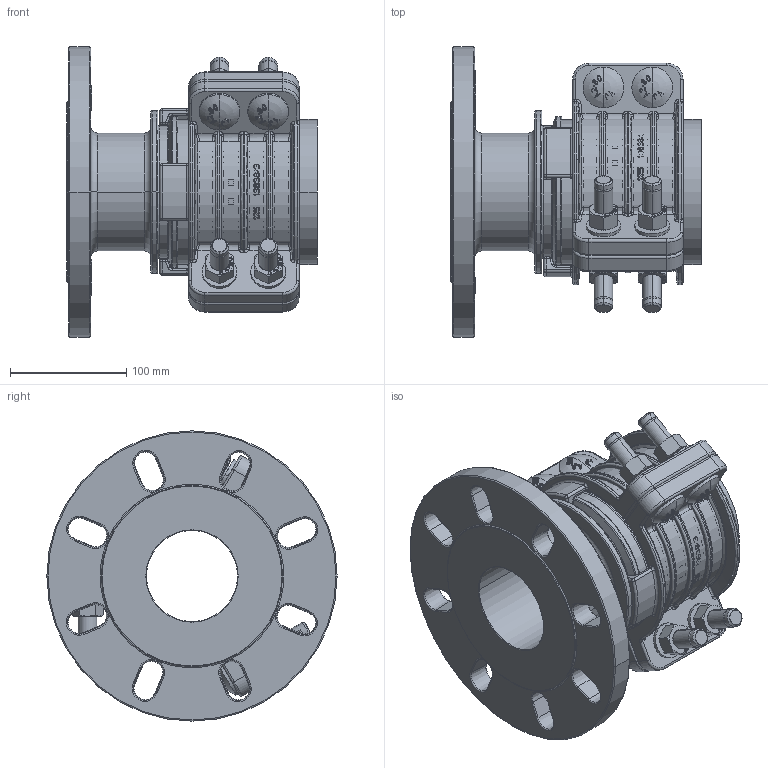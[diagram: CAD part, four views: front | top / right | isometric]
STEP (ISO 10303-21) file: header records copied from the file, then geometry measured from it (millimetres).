
FILE_DESCRIPTION((''),'2;1');
FILE_NAME('13643_7_ASM','2023-08-31T09:27:42',('catrombini'),(''),'CREO PARAMETRIC BY PTC INC, 2020454','CREO PARAMETRIC BY PTC INC, 2020454','');
FILE_SCHEMA(('CONFIG_CONTROL_DESIGN'));
Products named in the file (8): 13636_MACHINED_9; 13638_3; 12568_7; 10467_4; 10493_6; 7896_10; PE_125_SDR11; 13643_7_ASM
Assembly tree (29 placements, depth 2):
  13643_7_ASM
    13636_MACHINED_9
    13638_3  x3
    12568_7  x6
    10467_4  x6
    10493_6  x6
    7896_10  x6
    PE_125_SDR11
Bounding box: 215.34 x 250 x 250 mm (x, y, z)
Volume: 2618379.6 mm3; surface area: 661443.9 mm2
Topology: 29 solids, 47 shells, 6018 faces, 16253 edges, 10488 vertices
Faces by surface type: plane 4474, cylinder 580, torus 391, bspline 236, cone 217, sphere 120
Entity records: 83207 total; most frequent: CARTESIAN_POINT 20590, ORIENTED_EDGE 13554, DIRECTION 12222, EDGE_CURVE 6785, VECTOR 4672, LINE 4672, VERTEX_POINT 4383, AXIS2_PLACEMENT_3D 3775
